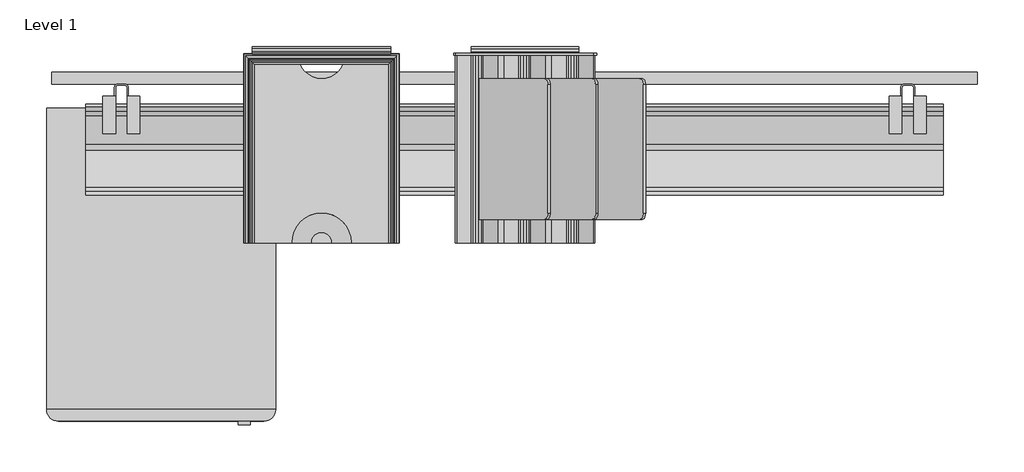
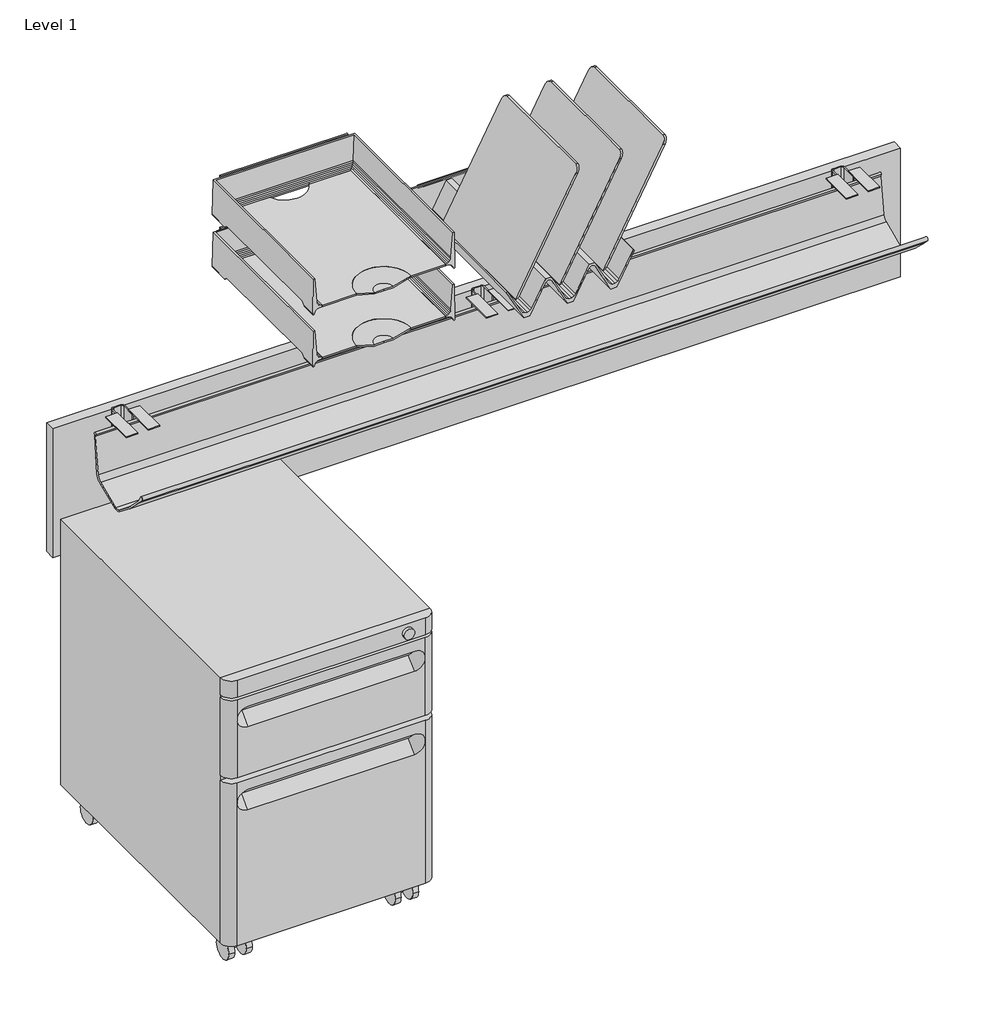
# One storey, incomplete: 5 furniture elements.
"""IFC4 building model written with IfcOpenShell, lengths in millimetres."""

from ifc_helpers import new_model, si_unit, origin, place, context, project, spatial, transform, mapped, element, save
from components import furniture_84c54a78, furniture_f982e0c0, furniture_baef4f76, furniture_31138a8b, lam_60w_cable_trough_c497a591

model = new_model("IFC4")

# Units and contexts
model_context = context("Model", 3, world=origin())
ifc_project = project(units=[si_unit("LENGTHUNIT", "METRE", prefix="MILLI")], contexts=[model_context])

# Site, building, storey
site = spatial("IfcSite", under=ifc_project)
building = spatial("IfcBuilding", under=site)
storey = spatial("IfcBuildingStorey", under=building, Name="Level 1", Elevation=0.0)

# Furniture
placement = place(None, origin())
furniture_shape = furniture_84c54a78(model_context)
element("IfcFurniture", 1, ObjectType="HermanMiller_QuadrantFiling_G5111_MobilePedestal : 21-1/2\"H x 20\"D x 15\"W BF", at=placement, inside=storey, context=model_context, shape_type="MappedRepresentation", body=[
    mapped(furniture_shape, transform((339.725, -315.079383, 0.0), x_axis=(1.0, 0.0, 0.0), y_axis=(0.0, 1.0, 0.0), z_axis=(0.0, 0.0, 1.0))),
])
furniture_2_shape = furniture_f982e0c0(model_context)
element("IfcFurniture", 2, ObjectType="HermanMiller_ThrivePortfolio_Y7216_PaperTray : 3\"H x 12\"D x 10\"W", at=placement, inside=storey, context=model_context, shape_type="MappedRepresentation", body=[
    mapped(furniture_2_shape, transform((599.72956, -135.40486, 0.0), x_axis=(1.0, 0.0, 0.0), y_axis=(0.0, 1.0, 0.0), z_axis=(0.0, 0.0, 1.0))),
])
furniture_3_shape = furniture_baef4f76(model_context)
element("IfcFurniture", 3, ObjectType="HermanMiller_ThrivePortfolio_Y7216_PaperTray : 3\"H x 12\"D x 10\"W", at=placement, inside=storey, context=model_context, shape_type="MappedRepresentation", body=[
    mapped(furniture_3_shape, transform((599.72956, -135.40486, 0.0), x_axis=(1.0, 0.0, 0.0), y_axis=(0.0, 1.0, 0.0), z_axis=(0.0, 0.0, 1.0))),
])
furniture_4_shape = furniture_31138a8b(model_context)
element("IfcFurniture", 4, ObjectType="HermanMiller_ThrivePortfolio_Y7218_DiagonalTray : 8 1/2\"H x 12\"D x 13\"W", at=placement, inside=storey, context=model_context, shape_type="MappedRepresentation", body=[
    mapped(furniture_4_shape, transform((929.845497, -135.40486, 0.0), x_axis=(1.0, 0.0, 0.0), y_axis=(0.0, 1.0, 0.0), z_axis=(0.0, 0.0, 1.0))),
])
lam_60w_cable_trough_shape = lam_60w_cable_trough_c497a591(model_context)
element("IfcFurniture", 5, ObjectType="HermanMiller_ThrivePortfolio_Y1113_FabricModestyPanel : Lam 60W Cable Trough", at=placement, inside=storey, context=model_context, shape_type="MappedRepresentation", body=[
    mapped(lam_60w_cable_trough_shape, transform((152.4, 0.0, 0.0), x_axis=(1.0, 0.0, 0.0), y_axis=(0.0, 1.0, 0.0), z_axis=(0.0, 0.0, 1.0))),
])

save(model, "model.ifc")
